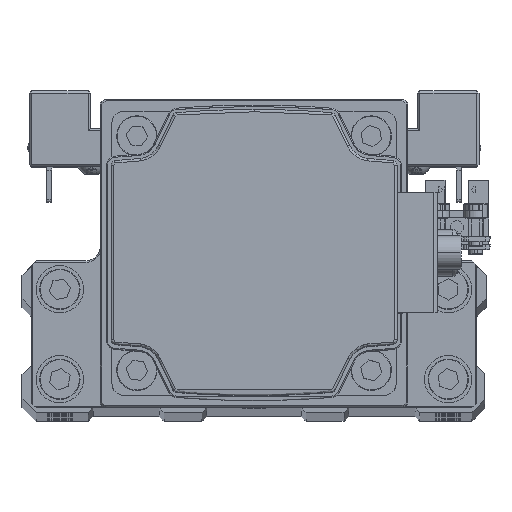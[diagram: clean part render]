
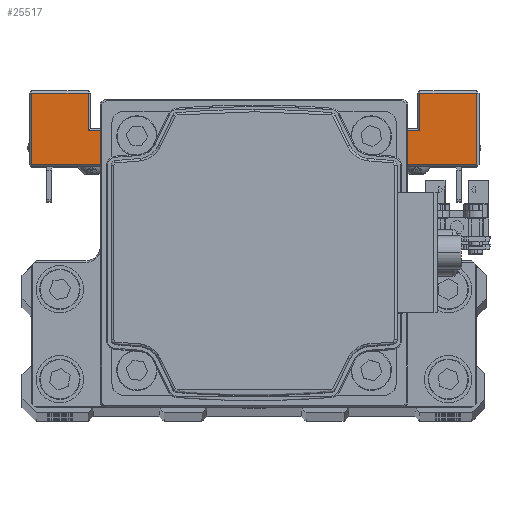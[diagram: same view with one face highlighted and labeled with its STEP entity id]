
A CAD part, top view. The second image highlights one B-rep face of the part: STEP entity #25517.
In plain terms, the highlighted planar face has unit normal (0, 0, 1) as drawn and (1, 0, 0) by its records, which use the part's own axes.
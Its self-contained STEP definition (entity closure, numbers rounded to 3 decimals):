
#60 = EDGE_CURVE ( 'NONE', #3710, #32889, #223, .T. ) ;
#223 = LINE ( 'NONE', #13714, #38827 ) ;
#415 = ORIENTED_EDGE ( 'NONE', *, *, #17664, .T. ) ;
#1528 = LINE ( 'NONE', #15019, #30633 ) ;
#1941 = CARTESIAN_POINT ( 'NONE',  ( 47., 15., -35. ) ) ;
#2242 = VECTOR ( 'NONE', #5968, 1000. ) ;
#2368 = CARTESIAN_POINT ( 'NONE',  ( 47., 8., 20. ) ) ;
#3258 = ORIENTED_EDGE ( 'NONE', *, *, #20016, .T. ) ;
#3480 = CARTESIAN_POINT ( 'NONE',  ( 47., 15., 35. ) ) ;
#3663 = CARTESIAN_POINT ( 'NONE',  ( 47., 7.5, -47. ) ) ;
#3710 = VERTEX_POINT ( 'NONE', #8520 ) ;
#3892 = DIRECTION ( 'NONE',  ( 0., 0., 1. ) ) ;
#4168 = EDGE_CURVE ( 'NONE', #36371, #14652, #20713, .T. ) ;
#4914 = VERTEX_POINT ( 'NONE', #32820 ) ;
#5006 = LINE ( 'NONE', #18513, #32412 ) ;
#5489 = ORIENTED_EDGE ( 'NONE', *, *, #39501, .T. ) ;
#5606 = VECTOR ( 'NONE', #43547, 1000. ) ;
#5968 = DIRECTION ( 'NONE',  ( 0., 0., 1. ) ) ;
#6531 = ORIENTED_EDGE ( 'NONE', *, *, #14116, .T. ) ;
#7448 = ORIENTED_EDGE ( 'NONE', *, *, #25461, .T. ) ;
#8520 = CARTESIAN_POINT ( 'NONE',  ( 47., 8., -20. ) ) ;
#8767 = DIRECTION ( 'NONE',  ( -1., 0., 0. ) ) ;
#8971 = VERTEX_POINT ( 'NONE', #3480 ) ;
#9111 = VERTEX_POINT ( 'NONE', #11216 ) ;
#9776 = CARTESIAN_POINT ( 'NONE',  ( 47., 23., -20. ) ) ;
#9974 = ORIENTED_EDGE ( 'NONE', *, *, #4168, .T. ) ;
#10285 = LINE ( 'NONE', #23780, #34637 ) ;
#10376 = VERTEX_POINT ( 'NONE', #1941 ) ;
#10514 = EDGE_CURVE ( 'NONE', #4914, #9111, #12984, .T. ) ;
#10670 = CARTESIAN_POINT ( 'NONE',  ( 47., 23., -35. ) ) ;
#11195 = AXIS2_PLACEMENT_3D ( 'NONE', #39095, #8767, #22269 ) ;
#11216 = CARTESIAN_POINT ( 'NONE',  ( 47., -7.5, -20. ) ) ;
#12087 = FACE_OUTER_BOUND ( 'NONE', #22455, .T. ) ;
#12984 = LINE ( 'NONE', #26481, #22928 ) ;
#13091 = CARTESIAN_POINT ( 'NONE',  ( 47., 7.5, -35. ) ) ;
#13283 = EDGE_CURVE ( 'NONE', #32889, #40964, #33995, .T. ) ;
#13714 = CARTESIAN_POINT ( 'NONE',  ( 47., 8., -47. ) ) ;
#14116 = EDGE_CURVE ( 'NONE', #40964, #28057, #40110, .T. ) ;
#14291 = LINE ( 'NONE', #27792, #41149 ) ;
#14652 = VERTEX_POINT ( 'NONE', #16592 ) ;
#15019 = CARTESIAN_POINT ( 'NONE',  ( 47., 7.5, -20. ) ) ;
#16090 = VECTOR ( 'NONE', #3892, 1000. ) ;
#16561 = LINE ( 'NONE', #30067, #5606 ) ;
#16592 = CARTESIAN_POINT ( 'NONE',  ( 47., 23., 47. ) ) ;
#16808 = ORIENTED_EDGE ( 'NONE', *, *, #38769, .T. ) ;
#17176 = DIRECTION ( 'NONE',  ( 0., 1., 0. ) ) ;
#17664 = EDGE_CURVE ( 'NONE', #14652, #25347, #16561, .T. ) ;
#18266 = CARTESIAN_POINT ( 'NONE',  ( 47., 8., -47. ) ) ;
#18513 = CARTESIAN_POINT ( 'NONE',  ( 47., 7.5, 20. ) ) ;
#18545 = VECTOR ( 'NONE', #17176, 1000. ) ;
#20016 = EDGE_CURVE ( 'NONE', #8971, #36371, #10285, .T. ) ;
#20713 = LINE ( 'NONE', #34223, #16090 ) ;
#21026 = VECTOR ( 'NONE', #26592, 1000. ) ;
#22269 = DIRECTION ( 'NONE',  ( 0., 0., 1. ) ) ;
#22455 = EDGE_LOOP ( 'NONE', ( #26953, #32994, #37122, #6531, #39895, #16808, #3258, #9974, #415, #5489, #7448, #39077 ) ) ;
#22789 = LINE ( 'NONE', #36300, #2242 ) ;
#22839 = VECTOR ( 'NONE', #23277, 1000. ) ;
#22928 = VECTOR ( 'NONE', #39988, 1000. ) ;
#23179 = EDGE_CURVE ( 'NONE', #28057, #10376, #43400, .T. ) ;
#23277 = DIRECTION ( 'NONE',  ( 0., 0., 1. ) ) ;
#23780 = CARTESIAN_POINT ( 'NONE',  ( 47., 7.5, 35. ) ) ;
#25347 = VERTEX_POINT ( 'NONE', #27582 ) ;
#25461 = EDGE_CURVE ( 'NONE', #36284, #4914, #5006, .T. ) ;
#25517 = ADVANCED_FACE ( 'NONE', ( #12087 ), #25580, .F. ) ;
#25580 = PLANE ( 'NONE',  #11195 ) ;
#26481 = CARTESIAN_POINT ( 'NONE',  ( 47., -7.5, -20. ) ) ;
#26592 = DIRECTION ( 'NONE',  ( 0., -1., 0. ) ) ;
#26953 = ORIENTED_EDGE ( 'NONE', *, *, #40595, .F. ) ;
#27213 = DIRECTION ( 'NONE',  ( 0., 0., -1. ) ) ;
#27582 = CARTESIAN_POINT ( 'NONE',  ( 47., 8., 47. ) ) ;
#27792 = CARTESIAN_POINT ( 'NONE',  ( 47., 8., 20. ) ) ;
#28057 = VERTEX_POINT ( 'NONE', #10670 ) ;
#28512 = DIRECTION ( 'NONE',  ( 0., -1., 0. ) ) ;
#30067 = CARTESIAN_POINT ( 'NONE',  ( 47., 7.5, 47. ) ) ;
#30633 = VECTOR ( 'NONE', #28512, 1000. ) ;
#32014 = DIRECTION ( 'NONE',  ( 0., -1., 0. ) ) ;
#32412 = VECTOR ( 'NONE', #32014, 1000. ) ;
#32820 = CARTESIAN_POINT ( 'NONE',  ( 47., -7.5, 20. ) ) ;
#32889 = VERTEX_POINT ( 'NONE', #18266 ) ;
#32994 = ORIENTED_EDGE ( 'NONE', *, *, #60, .T. ) ;
#33346 = CARTESIAN_POINT ( 'NONE',  ( 47., 23., 35. ) ) ;
#33995 = LINE ( 'NONE', #3663, #18545 ) ;
#34223 = CARTESIAN_POINT ( 'NONE',  ( 47., 23., -20. ) ) ;
#34637 = VECTOR ( 'NONE', #37292, 1000. ) ;
#36284 = VERTEX_POINT ( 'NONE', #2368 ) ;
#36300 = CARTESIAN_POINT ( 'NONE',  ( 47., 15., -20. ) ) ;
#36371 = VERTEX_POINT ( 'NONE', #33346 ) ;
#37122 = ORIENTED_EDGE ( 'NONE', *, *, #13283, .T. ) ;
#37292 = DIRECTION ( 'NONE',  ( 0., 1., 0. ) ) ;
#38008 = CARTESIAN_POINT ( 'NONE',  ( 47., 23., -47. ) ) ;
#38769 = EDGE_CURVE ( 'NONE', #10376, #8971, #22789, .T. ) ;
#38827 = VECTOR ( 'NONE', #27213, 1000. ) ;
#39077 = ORIENTED_EDGE ( 'NONE', *, *, #10514, .T. ) ;
#39095 = CARTESIAN_POINT ( 'NONE',  ( 47., 7.5, -20. ) ) ;
#39501 = EDGE_CURVE ( 'NONE', #25347, #36284, #14291, .T. ) ;
#39895 = ORIENTED_EDGE ( 'NONE', *, *, #23179, .T. ) ;
#39988 = DIRECTION ( 'NONE',  ( 0., 0., -1. ) ) ;
#40110 = LINE ( 'NONE', #9776, #22839 ) ;
#40595 = EDGE_CURVE ( 'NONE', #3710, #9111, #1528, .T. ) ;
#40964 = VERTEX_POINT ( 'NONE', #38008 ) ;
#41149 = VECTOR ( 'NONE', #41294, 1000. ) ;
#41294 = DIRECTION ( 'NONE',  ( 0., 0., -1. ) ) ;
#43400 = LINE ( 'NONE', #13091, #21026 ) ;
#43547 = DIRECTION ( 'NONE',  ( 0., -1., 0. ) ) ;
